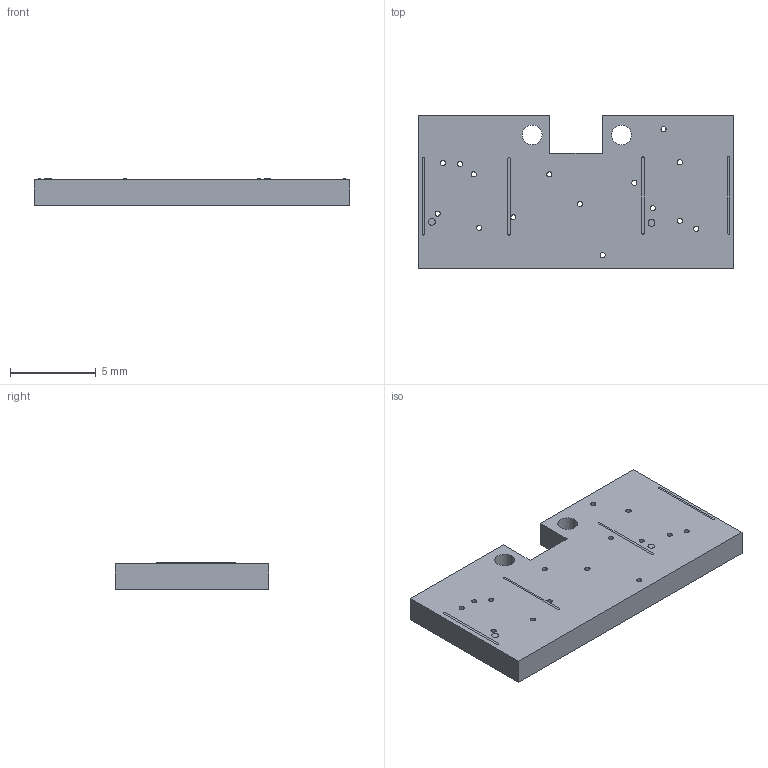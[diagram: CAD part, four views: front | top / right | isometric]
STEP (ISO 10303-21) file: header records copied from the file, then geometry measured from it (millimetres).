
FILE_DESCRIPTION(('KiCad electronic assembly'),'2;1');
FILE_NAME('Encoder_Board.step','2026-09-24T16:16:20',('Pcbnew'),('Kicad' ),'Open CASCADE STEP processor 7.9','KiCad to STEP converter', 'Unknown');
FILE_SCHEMA(('AUTOMOTIVE_DESIGN { 1 0 10303 214 1 1 1 1 }'));
Length unit declared in the file: millimetre
Products named in the file (3): Encoder_Board 1; Enc3EF5_silkscreen; Enc3EF5_PCB
Assembly tree (2 placements, depth 2):
  Encoder_Board 1
    Enc3EF5_silkscreen
    Enc3EF5_PCB
Bounding box: 18.4 x 8.95 x 1.58 mm (x, y, z)
Volume: 233.7 mm3; surface area: 433.7 mm2
Topology: 1 solids, 7 shells, 33 faces, 97 edges, 72 vertices
Faces by surface type: cylinder 17, plane 16
Full cylindrical faces by diameter (mm): 0.3 x15, 1.152 x2
Entity records: 1308 total; most frequent: DIRECTION 213, CARTESIAN_POINT 205, ORIENTED_EDGE 172, EDGE_CURVE 97, AXIS2_PLACEMENT_3D 80, VERTEX_POINT 72, FACE_BOUND 67, EDGE_LOOP 67
